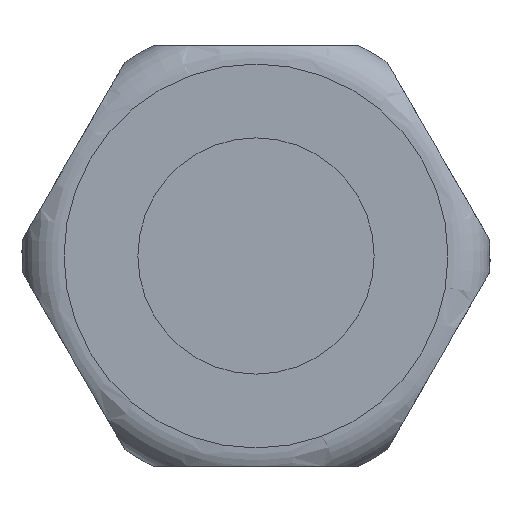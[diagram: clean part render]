
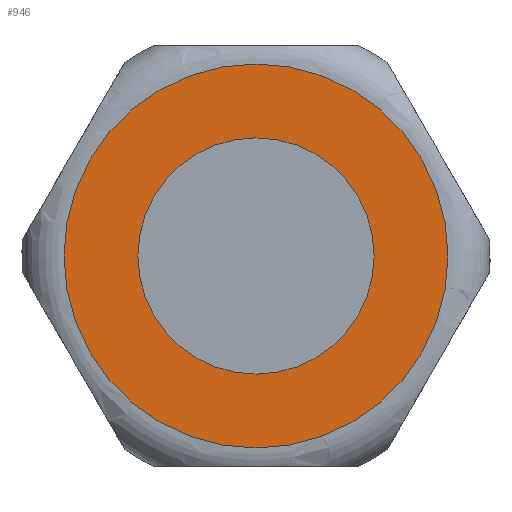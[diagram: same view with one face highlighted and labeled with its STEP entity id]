
A CAD part, left-side view. The second image highlights one B-rep face of the part: STEP entity #946.
In plain terms, the highlighted planar face has unit normal (-1, 0, 0).
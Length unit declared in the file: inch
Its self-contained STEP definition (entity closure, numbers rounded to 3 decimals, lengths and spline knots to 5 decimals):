
#16=FACE_BOUND('',#142,.T.);
#60=PLANE('',#1046);
#90=FACE_OUTER_BOUND('',#141,.T.);
#141=EDGE_LOOP('',(#681,#682));
#142=EDGE_LOOP('',(#683,#684));
#252=CIRCLE('',#1002,0.31496);
#253=CIRCLE('',#1003,0.31496);
#279=CIRCLE('',#1047,0.51181);
#280=CIRCLE('',#1048,0.51181);
#342=VERTEX_POINT('',#1461);
#343=VERTEX_POINT('',#1462);
#382=VERTEX_POINT('',#1722);
#383=VERTEX_POINT('',#1723);
#442=EDGE_CURVE('',#342,#343,#252,.T.);
#443=EDGE_CURVE('',#343,#342,#253,.T.);
#499=EDGE_CURVE('',#382,#383,#279,.T.);
#500=EDGE_CURVE('',#383,#382,#280,.T.);
#681=ORIENTED_EDGE('',*,*,#499,.F.);
#682=ORIENTED_EDGE('',*,*,#500,.F.);
#683=ORIENTED_EDGE('',*,*,#442,.T.);
#684=ORIENTED_EDGE('',*,*,#443,.T.);
#946=ADVANCED_FACE('',(#90,#16),#60,.T.);
#1002=AXIS2_PLACEMENT_3D('',#1463,#1146,#1147);
#1003=AXIS2_PLACEMENT_3D('',#1464,#1148,#1149);
#1046=AXIS2_PLACEMENT_3D('',#1721,#1250,#1251);
#1047=AXIS2_PLACEMENT_3D('',#1724,#1252,#1253);
#1048=AXIS2_PLACEMENT_3D('',#1725,#1254,#1255);
#1146=DIRECTION('center_axis',(1.,0.,0.));
#1147=DIRECTION('ref_axis',(0.,0.866,0.5));
#1148=DIRECTION('center_axis',(1.,0.,0.));
#1149=DIRECTION('ref_axis',(0.,0.866,0.5));
#1250=DIRECTION('center_axis',(-1.,0.,0.));
#1251=DIRECTION('ref_axis',(0.,0.866,0.5));
#1252=DIRECTION('center_axis',(1.,0.,0.));
#1253=DIRECTION('ref_axis',(0.,-0.866,-0.5));
#1254=DIRECTION('center_axis',(1.,0.,0.));
#1255=DIRECTION('ref_axis',(0.,-0.866,-0.5));
#1461=CARTESIAN_POINT('',(-2.39188,0.37407,-0.18686));
#1462=CARTESIAN_POINT('',(-2.39188,-0.17146,-0.50182));
#1463=CARTESIAN_POINT('Origin',(-2.39188,0.1013,-0.34434));
#1464=CARTESIAN_POINT('Origin',(-2.39188,0.1013,-0.34434));
#1721=CARTESIAN_POINT('Origin',(-2.39188,-0.34194,-0.60025));
#1722=CARTESIAN_POINT('',(-2.39188,-0.34194,-0.60025));
#1723=CARTESIAN_POINT('',(-2.39188,0.54454,-0.08844));
#1724=CARTESIAN_POINT('Origin',(-2.39188,0.1013,-0.34434));
#1725=CARTESIAN_POINT('Origin',(-2.39188,0.1013,-0.34434));
